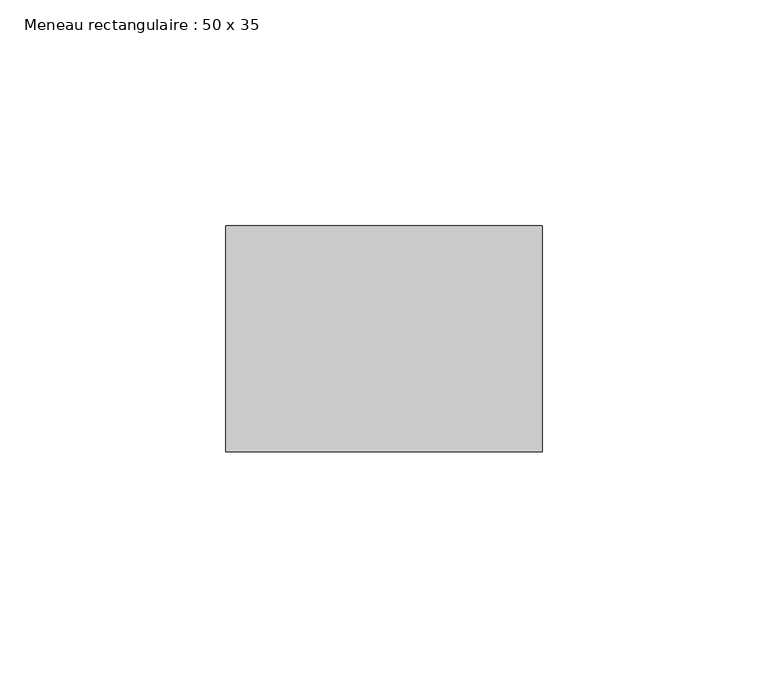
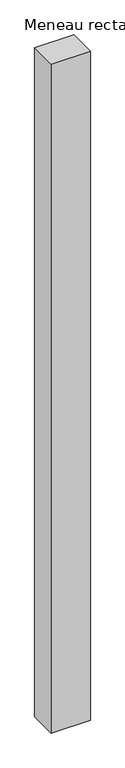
"""IFC4 building model written with IfcOpenShell, lengths in millimetres: member geometry, Meneau rectangulaire : 50 x 35."""

from ifc_helpers import new_model, si_unit, frame, origin, place, context, project, spatial, polyline, outline, extrude, source, transform, mapped, element, save


def meneau_rectangulaire_50_x_35_a04f7532(model_context):
    return source(origin(), model_context, "Body", "SweptSolid", [
        extrude(outline(polyline([(35.0, 0.0), (35.0, -50.0), (-35.0, -50.0), (-35.0, 0.0), (35.0, 0.0)])), frame((0.0, 0.0, -1255.899509), z_axis=(0.0, 0.0, 1.0), x_axis=(1.0, 0.0, 0.0)), (0.0, 0.0, 1.0), 1255.899509),
    ])


if __name__ == "__main__":
    model = new_model("IFC4")
    model_context = context("Model", 3, world=origin())
    ifc_project = project(units=[si_unit("LENGTHUNIT", "METRE", prefix="MILLI")], contexts=[model_context])
    site = spatial("IfcSite", under=ifc_project)
    building = spatial("IfcBuilding", under=site)
    placement = place(None, origin())
    meneau_rectangulaire_50_x_35_shape = meneau_rectangulaire_50_x_35_a04f7532(model_context)
    element("IfcMember", 1, ObjectType="Meneau rectangulaire : 50 x 35", at=placement, inside=building, context=model_context, shape_type="MappedRepresentation", body=[
        mapped(meneau_rectangulaire_50_x_35_shape, transform((0.0, 0.0, 0.0), x_axis=(1.0, 0.0, 0.0), y_axis=(0.0, 1.0, 0.0), z_axis=(0.0, 0.0, 1.0))),
    ])
    save(model, "model.ifc")
